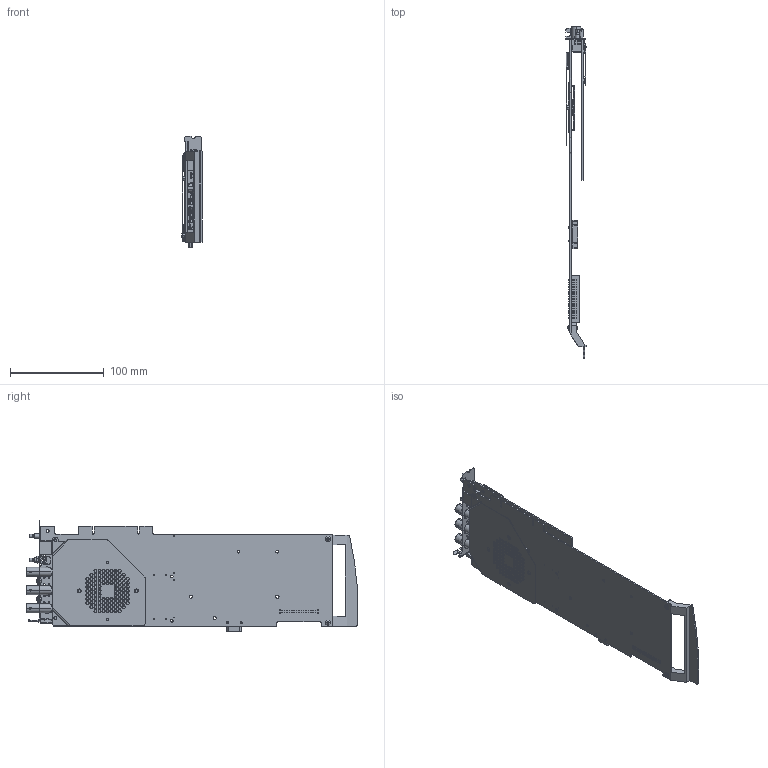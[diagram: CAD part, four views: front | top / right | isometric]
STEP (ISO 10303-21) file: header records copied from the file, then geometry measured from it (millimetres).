
FILE_DESCRIPTION((''),'2;1');
FILE_NAME('CD_PCI-5922','2009-12-15T',('jjorden'),(''),'PRO/ENGINEER BY PARAMETRIC TECHNOLOGY CORPORATION, 2006080','PRO/ENGINEER BY PARAMETRIC TECHNOLOGY CORPORATION, 2006080','');
FILE_SCHEMA(('CONFIG_CONTROL_DESIGN'));
Products named in the file (1): CD_PCI-5922
Bounding box: 22.24 x 354.53 x 118.72 mm (x, y, z)
Volume: 96731 mm3; surface area: 133741.4 mm2
Topology: 3 solids, 3 shells, 2727 faces, 7443 edges, 4732 vertices
Faces by surface type: plane 1790, cylinder 781, bspline 100, cone 28, torus 16, sphere 12
Entity records: 91137 total; most frequent: CARTESIAN_POINT 20917, ORIENTED_EDGE 14726, DIRECTION 14096, EDGE_CURVE 7363, VECTOR 5344, LINE 5344, VERTEX_POINT 4808, AXIS2_PLACEMENT_3D 4376
